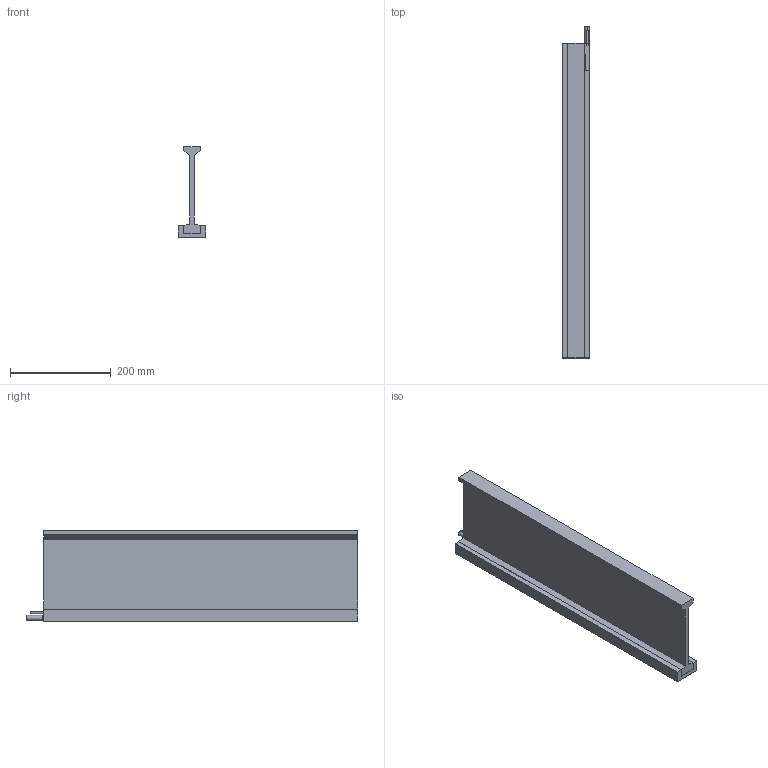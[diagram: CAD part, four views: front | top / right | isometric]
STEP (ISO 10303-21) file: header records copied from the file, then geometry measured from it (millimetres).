
FILE_DESCRIPTION (( 'STEP AP214' ), '1' );
FILE_NAME ('DX140F-C10.STEP', '2021-07-16T04:29:20', ( '' ), ( '' ), 'SwSTEP 2.0', 'SolidWorks 2020', '' );
FILE_SCHEMA (( 'AUTOMOTIVE_DESIGN' ));
Length unit declared in the file: millimetre
Products named in the file (6): DX140FH-X.X-ZZ-00 (CUSTOMER); CBL_PWR_D10; DX140FCX01_C10 (CUSTOMER); HEX SHCS M3x0.5x12(S.S)_B18.3.1M - 3 x 0.5 x 12 Hex SHCS -- 12CHX; DX140F-C10; TIM-PC 8850FT-LV (DX140F)_C10
Assembly tree (6 placements, depth 2):
  DX140F-C10
    TIM-PC 8850FT-LV (DX140F)_C10
    DX140FCX01_C10 (CUSTOMER)
    HEX SHCS M3x0.5x12(S.S)_B18.3.1M - 3 x 0.5 x 12 Hex SHCS -- 12CHX  x2
    CBL_PWR_D10
    DX140FH-X.X-ZZ-00 (CUSTOMER)
Bounding box: 55 x 660 x 180.6 mm (x, y, z)
Volume: 1938943.1 mm3; surface area: 413908.1 mm2
Topology: 8 solids, 8 shells, 301 faces, 737 edges, 425 vertices
Faces by surface type: plane 116, cylinder 105, cone 74, torus 6
Entity records: 8041 total; most frequent: DIRECTION 1401, CARTESIAN_POINT 1290, ORIENTED_EDGE 1230, EDGE_CURVE 615, AXIS2_PLACEMENT_3D 503, LINE 395, VECTOR 395, VERTEX_POINT 392
